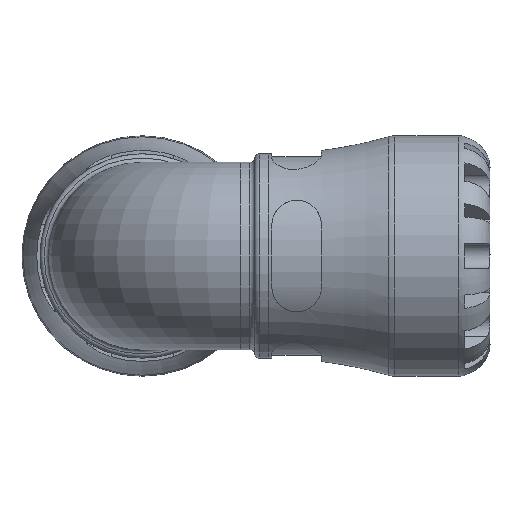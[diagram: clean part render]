
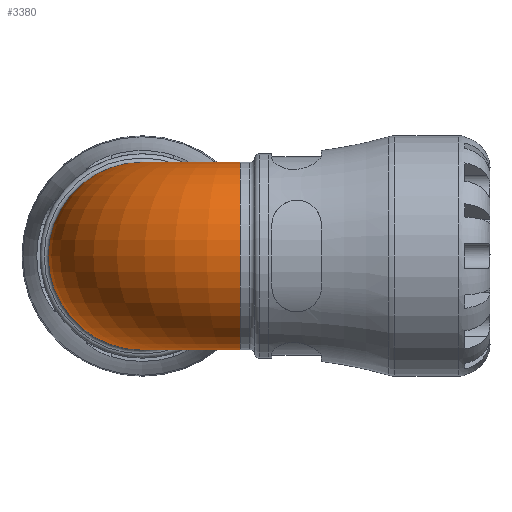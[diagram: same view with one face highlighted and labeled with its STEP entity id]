
A CAD part, front view. The second image highlights one B-rep face of the part: STEP entity #3380.
In plain terms, the highlighted toroidal (fillet/blend) face has major radius 34.758 mm and minor radius 33.15 mm.
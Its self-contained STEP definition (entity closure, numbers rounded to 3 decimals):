
#847=FACE_OUTER_BOUND('',#1043,.T.);
#1043=EDGE_LOOP('',(#2331,#2332,#2333,#2334,#2335,#2336));
#1253=CIRCLE('',#3602,33.15);
#1254=CIRCLE('',#3603,1.608);
#1255=CIRCLE('',#3604,33.15);
#1256=CIRCLE('',#3605,33.15);
#1257=CIRCLE('',#3606,33.15);
#1473=VERTEX_POINT('',#5032);
#1474=VERTEX_POINT('',#5033);
#1475=VERTEX_POINT('',#5035);
#1476=VERTEX_POINT('',#5037);
#1809=EDGE_CURVE('',#1473,#1474,#1253,.T.);
#1810=EDGE_CURVE('',#1473,#1475,#1254,.T.);
#1811=EDGE_CURVE('',#1476,#1475,#1255,.T.);
#1812=EDGE_CURVE('',#1475,#1476,#1256,.T.);
#1813=EDGE_CURVE('',#1474,#1473,#1257,.T.);
#2331=ORIENTED_EDGE('',*,*,#1809,.F.);
#2332=ORIENTED_EDGE('',*,*,#1810,.T.);
#2333=ORIENTED_EDGE('',*,*,#1811,.F.);
#2334=ORIENTED_EDGE('',*,*,#1812,.F.);
#2335=ORIENTED_EDGE('',*,*,#1810,.F.);
#2336=ORIENTED_EDGE('',*,*,#1813,.F.);
#3368=TOROIDAL_SURFACE('',#3601,34.758,33.15);
#3380=ADVANCED_FACE('',(#847),#3368,.T.);
#3601=AXIS2_PLACEMENT_3D('',#5031,#4026,#4027);
#3602=AXIS2_PLACEMENT_3D('',#5034,#4028,#4029);
#3603=AXIS2_PLACEMENT_3D('',#5036,#4030,#4031);
#3604=AXIS2_PLACEMENT_3D('',#5038,#4032,#4033);
#3605=AXIS2_PLACEMENT_3D('',#5039,#4034,#4035);
#3606=AXIS2_PLACEMENT_3D('',#5040,#4036,#4037);
#4026=DIRECTION('center_axis',(0.,0.,1.));
#4027=DIRECTION('ref_axis',(1.,0.,0.));
#4028=DIRECTION('center_axis',(1.,0.,0.));
#4029=DIRECTION('ref_axis',(0.,0.,-1.));
#4030=DIRECTION('center_axis',(0.,0.,-1.));
#4031=DIRECTION('ref_axis',(1.,0.,0.));
#4032=DIRECTION('center_axis',(0.,1.,0.));
#4033=DIRECTION('ref_axis',(0.,0.,-1.));
#4034=DIRECTION('center_axis',(0.,1.,0.));
#4035=DIRECTION('ref_axis',(0.,0.,-1.));
#4036=DIRECTION('center_axis',(1.,0.,0.));
#4037=DIRECTION('ref_axis',(0.,0.,-1.));
#5031=CARTESIAN_POINT('Origin',(34.758,34.758,0.));
#5032=CARTESIAN_POINT('',(34.758,33.15,0.));
#5033=CARTESIAN_POINT('',(34.758,-33.15,0.));
#5034=CARTESIAN_POINT('Origin',(34.758,0.,0.));
#5035=CARTESIAN_POINT('',(33.15,34.758,0.));
#5036=CARTESIAN_POINT('Origin',(34.758,34.758,0.));
#5037=CARTESIAN_POINT('',(0.,34.758,-33.15));
#5038=CARTESIAN_POINT('Origin',(0.,34.758,0.));
#5039=CARTESIAN_POINT('Origin',(0.,34.758,0.));
#5040=CARTESIAN_POINT('Origin',(34.758,0.,0.));
